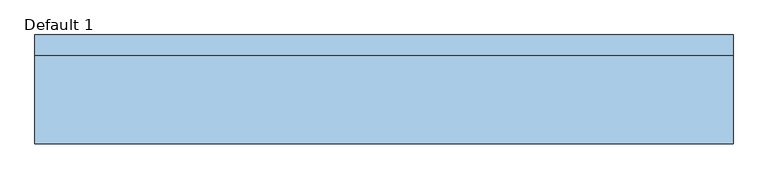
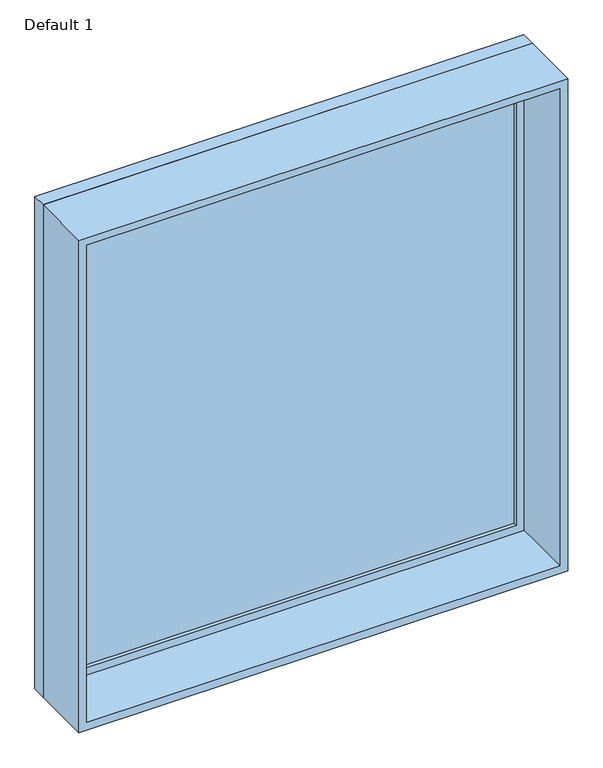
"""IFC4 building model written with IfcOpenShell, lengths in millimetres: window geometry, Planitar-Fixed : Default 1."""

from ifc_helpers import new_model, si_unit, frame, origin, place, context, project, spatial, polyline, outline, extrude, source, transform, mapped, element, save


def default_1_be922671(model_context):
    return source(origin(), model_context, "Body", "SweptSolid", [
        extrude(outline(polyline([(2978.2, -958.9), (933.4, -958.9), (933.4, 958.9), (2978.2, 958.9), (2978.2, -958.9)]), holes=[polyline([(2934.2, -914.9), (2934.2, 914.9), (977.4, 914.9), (977.4, -914.9), (2934.2, -914.9)])]), frame((0.0, 108.7, 0.0), z_axis=(0.0, 1.0, 0.0), x_axis=(0.0, 0.0, 1.0)), (0.0, 0.0, 1.0), 44.0),
        extrude(outline(polyline([(2997.2, -977.9), (914.4, -977.9), (914.4, 977.9), (2997.2, 977.9), (2997.2, -977.9)]), holes=[polyline([(2978.2, -958.9), (2978.2, 958.9), (933.4, 958.9), (933.4, -958.9), (2978.2, -958.9)])]), frame((0.0, 108.7, 0.0), z_axis=(0.0, 1.0, 0.0), x_axis=(0.0, 0.0, 1.0)), (0.0, 0.0, 1.0), 56.7),
        extrude(outline(polyline([(2997.2, -977.9), (914.4, -977.9), (914.4, 977.9), (2997.2, 977.9), (2997.2, -977.9)]), holes=[polyline([(2965.2, -945.9), (2965.2, 945.9), (946.4, 945.9), (946.4, -945.9), (2965.2, -945.9)])]), frame((0.0, -139.4, 0.0), z_axis=(0.0, 1.0, 0.0), x_axis=(0.0, 0.0, 1.0)), (0.0, 0.0, 1.0), 248.1),
        extrude(outline(polyline([(-914.9, 136.7), (914.9, 136.7), (914.9, 124.7), (-914.9, 124.7), (-914.9, 136.7)])), frame((0.0, 0.0, 977.4), z_axis=(0.0, 0.0, 1.0), x_axis=(1.0, 0.0, 0.0)), (0.0, 0.0, 1.0), 1956.8),
    ])


if __name__ == "__main__":
    model = new_model("IFC4")
    model_context = context("Model", 3, world=origin())
    ifc_project = project(units=[si_unit("LENGTHUNIT", "METRE", prefix="MILLI")], contexts=[model_context])
    site = spatial("IfcSite", under=ifc_project)
    building = spatial("IfcBuilding", under=site)
    placement = place(None, origin())
    default_1_shape = default_1_be922671(model_context)
    element("IfcWindow", 1, ObjectType="Planitar-Fixed : Default 1", at=placement, inside=building, context=model_context, shape_type="MappedRepresentation", body=[
        mapped(default_1_shape, transform((0.0, 0.0, 0.0), x_axis=(1.0, 0.0, 0.0), y_axis=(0.0, 1.0, 0.0), z_axis=(0.0, 0.0, 1.0))),
    ])
    save(model, "model.ifc")
